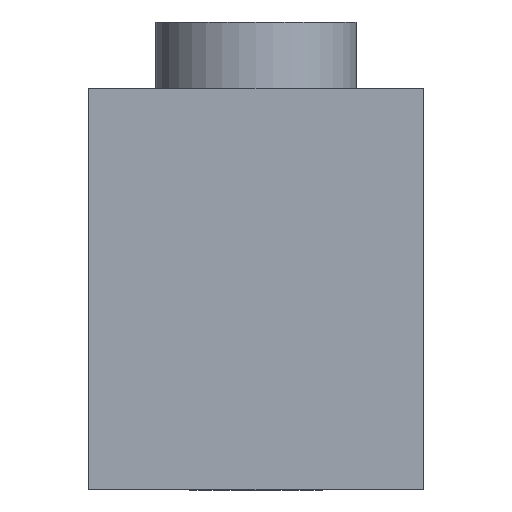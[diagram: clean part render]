
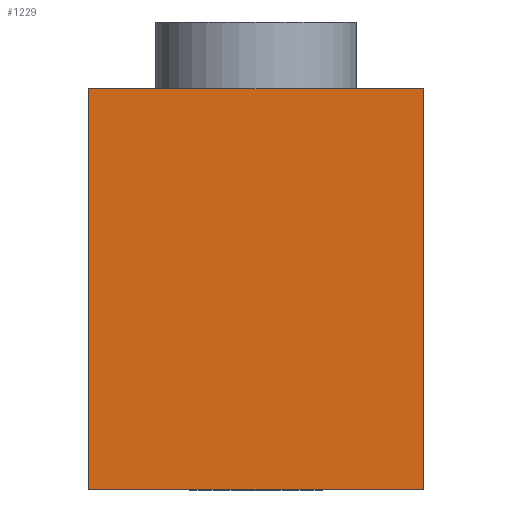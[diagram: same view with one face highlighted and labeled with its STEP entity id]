
A CAD part, front view. The second image highlights one B-rep face of the part: STEP entity #1229.
In plain terms, the highlighted planar face has unit normal (0, -1, 0).
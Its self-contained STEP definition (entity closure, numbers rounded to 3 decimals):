
#243=ORIENTED_EDGE('',*,*,#492,.T.);
#244=ORIENTED_EDGE('',*,*,#498,.T.);
#245=ORIENTED_EDGE('',*,*,#507,.T.);
#246=ORIENTED_EDGE('',*,*,#510,.T.);
#492=EDGE_CURVE('',#628,#629,#745,.T.);
#498=EDGE_CURVE('',#629,#632,#751,.T.);
#507=EDGE_CURVE('',#632,#640,#755,.T.);
#510=EDGE_CURVE('',#640,#628,#757,.T.);
#628=VERTEX_POINT('',#2001);
#629=VERTEX_POINT('',#2002);
#632=VERTEX_POINT('',#2012);
#640=VERTEX_POINT('',#2029);
#745=LINE('',#2000,#819);
#751=LINE('',#2011,#825);
#755=LINE('',#2030,#829);
#757=LINE('',#2035,#831);
#819=VECTOR('',#1578,1000.);
#825=VECTOR('',#1586,1000.);
#829=VECTOR('',#1602,1000.);
#831=VECTOR('',#1608,1000.);
#873=EDGE_LOOP('',(#243,#244,#245,#246));
#1033=FACE_BOUND('',#873,.T.);
#1176=PLANE('',#1358);
#1229=ADVANCED_FACE('',(#1033),#1176,.T.);
#1358=AXIS2_PLACEMENT_3D('',#2048,#1622,#1623);
#1578=DIRECTION('',(0.,0.,-1.));
#1586=DIRECTION('',(1.,0.,0.));
#1602=DIRECTION('',(0.,0.,1.));
#1608=DIRECTION('',(-1.,0.,0.));
#1622=DIRECTION('',(0.,-1.,0.));
#1623=DIRECTION('',(0.,0.,-1.));
#2000=CARTESIAN_POINT('',(0.,0.,9.6));
#2001=CARTESIAN_POINT('',(0.,0.,9.6));
#2002=CARTESIAN_POINT('',(0.,0.,0.));
#2011=CARTESIAN_POINT('',(0.,0.,0.));
#2012=CARTESIAN_POINT('',(8.,0.,0.));
#2029=CARTESIAN_POINT('',(8.,0.,9.6));
#2030=CARTESIAN_POINT('',(8.,0.,0.));
#2035=CARTESIAN_POINT('',(8.,0.,9.6));
#2048=CARTESIAN_POINT('',(0.,0.,0.));
